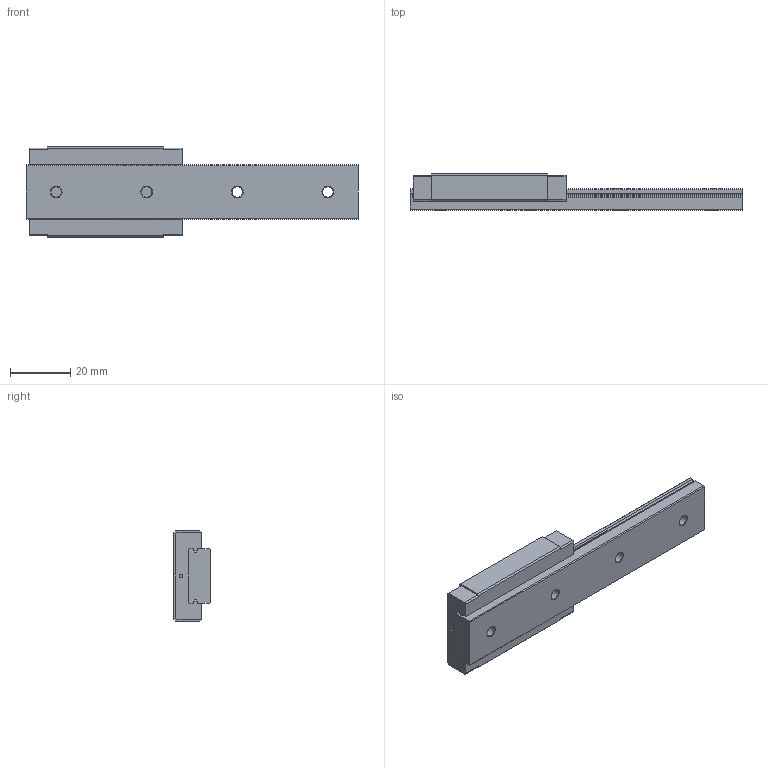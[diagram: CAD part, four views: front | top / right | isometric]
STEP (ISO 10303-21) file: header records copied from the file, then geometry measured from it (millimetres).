
FILE_DESCRIPTION( ( 'STEP AP214' ), '1' );
FILE_NAME( 'C:/Users/Futia/Documents/MLW9H.stp', '2021-11-04T07:06:20', ( 'License CC BY-ND 4.0' ), ( 'CADENAS' ), ' ', 'PARTsolutions', ' ' );
FILE_SCHEMA( ( 'AUTOMOTIVE_DESIGN { 1 0 10303 214 1 1 1 1 }' ) );
Length unit declared in the file: millimetre
Products named in the file (3): SWHC-H12-1-L110-E10; _SWHC-H12-1-L110-E10_SWHC_GUIDERAIL; _SWHC-H12-1-L110-E10_SWHC_BLOCK
Assembly tree (2 placements, depth 2):
  SWHC-H12-1-L110-E10
    _SWHC-H12-1-L110-E10_SWHC_GUIDERAIL
    _SWHC-H12-1-L110-E10_SWHC_BLOCK
Bounding box: 110 x 12 x 30 mm (x, y, z)
Volume: 22804.6 mm3; surface area: 11417.8 mm2
Topology: 2 solids, 2 shells, 110 faces, 276 edges, 180 vertices
Faces by surface type: plane 64, cylinder 34, cone 12
Full cylindrical faces by diameter (mm): 1.2 x2, 2.459 x4, 3.51 x4, 6.01 x4
Entity records: 4104 total; most frequent: DIRECTION 556, CARTESIAN_POINT 543, ORIENTED_EDGE 500, EDGE_CURVE 250, AXIS2_PLACEMENT_3D 193, VERTEX_POINT 180, LINE 170, VECTOR 170
